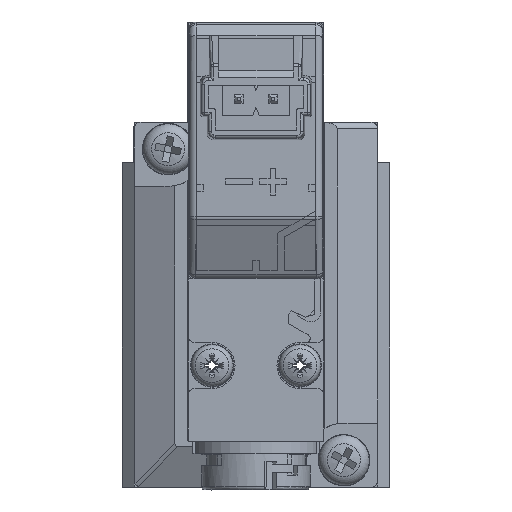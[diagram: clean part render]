
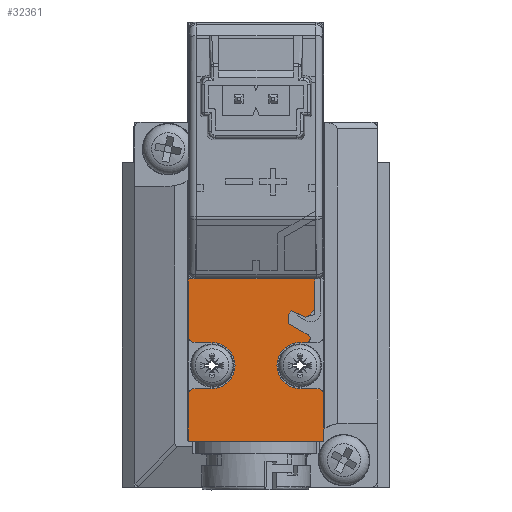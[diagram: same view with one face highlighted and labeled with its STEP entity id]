
A CAD part, left-side view. The second image highlights one B-rep face of the part: STEP entity #32361.
In plain terms, the highlighted planar face has unit normal (-1, 0, 0).
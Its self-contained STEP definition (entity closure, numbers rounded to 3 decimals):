
#1667=PLANE('',#34688);
#3699=LINE('',#55471,#6529);
#3730=LINE('',#55565,#6560);
#3741=LINE('',#55598,#6571);
#3746=LINE('',#55611,#6576);
#3751=LINE('',#55629,#6581);
#3753=LINE('',#55633,#6583);
#3755=LINE('',#55639,#6585);
#3756=LINE('',#55641,#6586);
#3757=LINE('',#55643,#6587);
#3758=LINE('',#55645,#6588);
#3759=LINE('',#55649,#6589);
#3760=LINE('',#55650,#6590);
#3761=LINE('',#55651,#6591);
#3762=LINE('',#55653,#6592);
#3763=LINE('',#55654,#6593);
#6529=VECTOR('',#40460,9.35);
#6560=VECTOR('',#40547,3.4);
#6571=VECTOR('',#40574,1.25);
#6576=VECTOR('',#40589,1.25);
#6581=VECTOR('',#40608,0.455);
#6583=VECTOR('',#40612,1.25);
#6585=VECTOR('',#40620,1.68);
#6586=VECTOR('',#40621,0.7);
#6587=VECTOR('',#40622,0.313);
#6588=VECTOR('',#40623,1.183);
#6589=VECTOR('',#40626,0.611);
#6590=VECTOR('',#40627,2.254);
#6591=VECTOR('',#40628,4.2);
#6592=VECTOR('',#40629,3.4);
#6593=VECTOR('',#40630,10.);
#8813=FACE_OUTER_BOUND('',#10741,.T.);
#10741=EDGE_LOOP('',(#25514,#25515,#25516,#25517,#25518,#25519,#25520,#25521,
#25522,#25523,#25524,#25525,#25526,#25527,#25528,#25529,#25530,#25531,#25532,
#25533,#25534,#25535));
#12142=CIRCLE('',#34657,0.3);
#12148=CIRCLE('',#34667,1.7);
#12152=CIRCLE('',#34674,0.5);
#12153=CIRCLE('',#34676,0.5);
#12155=CIRCLE('',#34680,1.7);
#12158=CIRCLE('',#34687,0.5);
#12159=CIRCLE('',#34689,1.);
#14662=VERTEX_POINT('',#55468);
#14663=VERTEX_POINT('',#55470);
#14685=VERTEX_POINT('',#55534);
#14686=VERTEX_POINT('',#55536);
#14697=VERTEX_POINT('',#55562);
#14698=VERTEX_POINT('',#55564);
#14705=VERTEX_POINT('',#55579);
#14706=VERTEX_POINT('',#55581);
#14712=VERTEX_POINT('',#55597);
#14713=VERTEX_POINT('',#55601);
#14714=VERTEX_POINT('',#55605);
#14715=VERTEX_POINT('',#55607);
#14718=VERTEX_POINT('',#55616);
#14719=VERTEX_POINT('',#55618);
#14722=VERTEX_POINT('',#55632);
#14723=VERTEX_POINT('',#55638);
#14724=VERTEX_POINT('',#55640);
#14725=VERTEX_POINT('',#55642);
#14726=VERTEX_POINT('',#55644);
#14727=VERTEX_POINT('',#55646);
#14728=VERTEX_POINT('',#55648);
#14729=VERTEX_POINT('',#55652);
#18436=EDGE_CURVE('',#14663,#14662,#3699,.T.);
#18467=EDGE_CURVE('',#14685,#14686,#12142,.T.);
#18480=EDGE_CURVE('',#14698,#14697,#3730,.T.);
#18488=EDGE_CURVE('',#14706,#14705,#12148,.T.);
#18496=EDGE_CURVE('',#14712,#14706,#3741,.T.);
#18498=EDGE_CURVE('',#14713,#14712,#12152,.T.);
#18501=EDGE_CURVE('',#14715,#14714,#12153,.T.);
#18503=EDGE_CURVE('',#14705,#14715,#3746,.T.);
#18506=EDGE_CURVE('',#14719,#14718,#12155,.T.);
#18512=EDGE_CURVE('',#14718,#14686,#3751,.T.);
#18514=EDGE_CURVE('',#14722,#14719,#3753,.T.);
#18516=EDGE_CURVE('',#14697,#14722,#12158,.T.);
#18517=EDGE_CURVE('',#14685,#14723,#3755,.T.);
#18518=EDGE_CURVE('',#14723,#14724,#3756,.T.);
#18519=EDGE_CURVE('',#14724,#14725,#3757,.T.);
#18520=EDGE_CURVE('',#14725,#14726,#3758,.T.);
#18521=EDGE_CURVE('',#14726,#14727,#12159,.T.);
#18522=EDGE_CURVE('',#14727,#14728,#3759,.T.);
#18523=EDGE_CURVE('',#14728,#14663,#3760,.T.);
#18524=EDGE_CURVE('',#14662,#14713,#3761,.T.);
#18525=EDGE_CURVE('',#14714,#14729,#3762,.T.);
#18526=EDGE_CURVE('',#14729,#14698,#3763,.T.);
#25514=ORIENTED_EDGE('',*,*,#18467,.F.);
#25515=ORIENTED_EDGE('',*,*,#18517,.T.);
#25516=ORIENTED_EDGE('',*,*,#18518,.T.);
#25517=ORIENTED_EDGE('',*,*,#18519,.T.);
#25518=ORIENTED_EDGE('',*,*,#18520,.T.);
#25519=ORIENTED_EDGE('',*,*,#18521,.T.);
#25520=ORIENTED_EDGE('',*,*,#18522,.T.);
#25521=ORIENTED_EDGE('',*,*,#18523,.T.);
#25522=ORIENTED_EDGE('',*,*,#18436,.T.);
#25523=ORIENTED_EDGE('',*,*,#18524,.T.);
#25524=ORIENTED_EDGE('',*,*,#18498,.T.);
#25525=ORIENTED_EDGE('',*,*,#18496,.T.);
#25526=ORIENTED_EDGE('',*,*,#18488,.T.);
#25527=ORIENTED_EDGE('',*,*,#18503,.T.);
#25528=ORIENTED_EDGE('',*,*,#18501,.T.);
#25529=ORIENTED_EDGE('',*,*,#18525,.T.);
#25530=ORIENTED_EDGE('',*,*,#18526,.T.);
#25531=ORIENTED_EDGE('',*,*,#18480,.T.);
#25532=ORIENTED_EDGE('',*,*,#18516,.T.);
#25533=ORIENTED_EDGE('',*,*,#18514,.T.);
#25534=ORIENTED_EDGE('',*,*,#18506,.T.);
#25535=ORIENTED_EDGE('',*,*,#18512,.T.);
#32361=ADVANCED_FACE('',(#8813),#1667,.T.);
#34657=AXIS2_PLACEMENT_3D('',#55537,#40523,#40524);
#34667=AXIS2_PLACEMENT_3D('',#55582,#40558,#40559);
#34674=AXIS2_PLACEMENT_3D('',#55602,#40578,#40579);
#34676=AXIS2_PLACEMENT_3D('',#55608,#40584,#40585);
#34680=AXIS2_PLACEMENT_3D('',#55619,#40595,#40596);
#34687=AXIS2_PLACEMENT_3D('',#55636,#40616,#40617);
#34688=AXIS2_PLACEMENT_3D('',#55637,#40618,#40619);
#34689=AXIS2_PLACEMENT_3D('',#55647,#40624,#40625);
#40460=DIRECTION('',(0.,1.,0.));
#40523=DIRECTION('center_axis',(1.,0.,0.));
#40524=DIRECTION('ref_axis',(0.,0.,
-1.));
#40547=DIRECTION('',(0.,0.,1.));
#40558=DIRECTION('center_axis',(1.,0.,0.));
#40559=DIRECTION('ref_axis',(0.,0.,
-1.));
#40574=DIRECTION('',(0.,-1.,0.));
#40578=DIRECTION('center_axis',(-1.,0.,0.));
#40579=DIRECTION('ref_axis',(0.,-1.,0.));
#40584=DIRECTION('center_axis',(-1.,0.,0.));
#40585=DIRECTION('ref_axis',(0.,0.,
-1.));
#40589=DIRECTION('',(0.,1.,0.));
#40595=DIRECTION('center_axis',(1.,0.,0.));
#40596=DIRECTION('ref_axis',(0.,0.,
1.));
#40608=DIRECTION('',(0.,-1.,0.));
#40612=DIRECTION('',(0.,1.,0.));
#40616=DIRECTION('center_axis',(-1.,0.,0.));
#40617=DIRECTION('ref_axis',(0.,1.,0.));
#40618=DIRECTION('center_axis',(-1.,0.,0.));
#40619=DIRECTION('ref_axis',(0.,-1.,0.));
#40620=DIRECTION('',(0.,0.866,0.5));
#40621=DIRECTION('',(0.,0.,1.));
#40622=DIRECTION('',(0.,-0.639,0.77));
#40623=DIRECTION('',(0.,-0.92,-0.391));
#40624=DIRECTION('center_axis',(-1.,0.,0.));
#40625=DIRECTION('ref_axis',(0.,0.389,0.921));
#40626=DIRECTION('',(0.,-0.707,0.707));
#40627=DIRECTION('',(0.,0.,1.));
#40628=DIRECTION('',(0.,0.,-1.));
#40629=DIRECTION('',(0.,0.,-1.));
#40630=DIRECTION('',(0.,-1.,0.));
#55468=CARTESIAN_POINT('',(-68.,5.,1.9));
#55470=CARTESIAN_POINT('',(-68.,-4.35,1.9));
#55471=CARTESIAN_POINT('',(-68.,-5.,1.9));
#55534=CARTESIAN_POINT('',(-68.,-3.855,-2.24));
#55536=CARTESIAN_POINT('',(-68.,-3.705,-2.8));
#55537=CARTESIAN_POINT('Origin',(-68.,-3.705,-2.5));
#55562=CARTESIAN_POINT('',(-68.,-5.,-6.7));
#55564=CARTESIAN_POINT('',(-68.,-5.,-10.1));
#55565=CARTESIAN_POINT('',(-68.,-5.,-10.1));
#55579=CARTESIAN_POINT('',(-68.,3.25,-6.2));
#55581=CARTESIAN_POINT('',(-68.,3.25,-2.8));
#55582=CARTESIAN_POINT('Origin',(-68.,3.25,-4.5));
#55597=CARTESIAN_POINT('',(-68.,4.5,-2.8));
#55598=CARTESIAN_POINT('',(-68.,1.625,-2.8));
#55601=CARTESIAN_POINT('',(-68.,5.,-2.3));
#55602=CARTESIAN_POINT('Origin',(-68.,4.5,-2.3));
#55605=CARTESIAN_POINT('',(-68.,5.,-6.7));
#55607=CARTESIAN_POINT('',(-68.,4.5,-6.2));
#55608=CARTESIAN_POINT('Origin',(-68.,4.5,-6.7));
#55611=CARTESIAN_POINT('',(-68.,2.25,-6.2));
#55616=CARTESIAN_POINT('',(-68.,-3.25,-2.8));
#55618=CARTESIAN_POINT('',(-68.,-3.25,-6.2));
#55619=CARTESIAN_POINT('Origin',(-68.,-3.25,-4.5));
#55629=CARTESIAN_POINT('',(-68.,-2.25,-2.8));
#55632=CARTESIAN_POINT('',(-68.,-4.5,-6.2));
#55633=CARTESIAN_POINT('',(-68.,-1.625,-6.2));
#55636=CARTESIAN_POINT('Origin',(-68.,-4.5,-6.7));
#55637=CARTESIAN_POINT('Origin',(-68.,0.,
-4.1));
#55638=CARTESIAN_POINT('',(-68.,-2.4,-1.4));
#55639=CARTESIAN_POINT('',(-68.,-2.708,-1.578));
#55640=CARTESIAN_POINT('',(-68.,-2.4,-0.7));
#55641=CARTESIAN_POINT('',(-68.,-2.4,-2.4));
#55642=CARTESIAN_POINT('',(-68.,-2.6,-0.459));
#55643=CARTESIAN_POINT('',(-68.,-1.175,-2.176));
#55644=CARTESIAN_POINT('',(-68.,-3.689,-0.921));
#55645=CARTESIAN_POINT('',(-68.,-2.698,-0.501));
#55646=CARTESIAN_POINT('',(-68.,-3.918,-0.786));
#55647=CARTESIAN_POINT('Origin',(-68.,-3.3,0.));
#55648=CARTESIAN_POINT('',(-68.,-4.35,-0.354));
#55649=CARTESIAN_POINT('',(-68.,-2.326,-2.378));
#55650=CARTESIAN_POINT('',(-68.,-4.35,-1.1));
#55651=CARTESIAN_POINT('',(-68.,5.,1.9));
#55652=CARTESIAN_POINT('',(-68.,5.,-10.1));
#55653=CARTESIAN_POINT('',(-68.,5.,1.9));
#55654=CARTESIAN_POINT('',(-68.,5.,-10.1));
